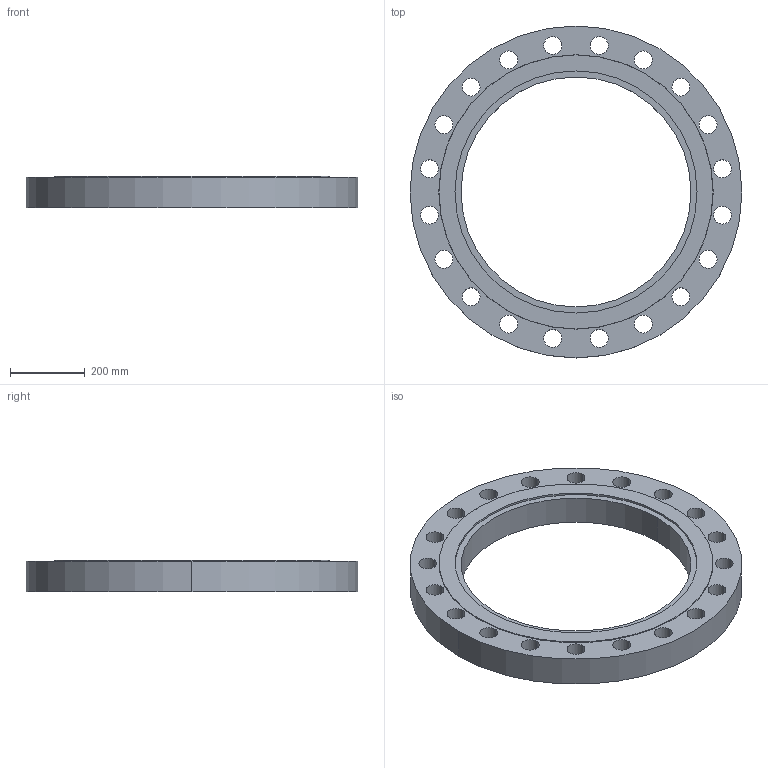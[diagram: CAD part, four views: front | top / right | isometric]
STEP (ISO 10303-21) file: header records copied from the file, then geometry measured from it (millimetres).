
FILE_DESCRIPTION (( 'STEP AP214' ), '1' );
FILE_NAME ('PN40 DN600 Type 01 - Type G Face.STEP', '2018-12-28T23:38:50', ( '' ), ( '' ), 'SwSTEP 2.0', 'SolidWorks 2019', '' );
FILE_SCHEMA (( 'AUTOMOTIVE_DESIGN' ));
Length unit declared in the file: millimetre
Products named in the file (1): PN40 DN600 Type 01 - Type G Face
Bounding box: 890 x 890 x 84 mm (x, y, z)
Volume: 23642723.1 mm3; surface area: 1218538 mm2
Topology: 1 solids, 1 shells, 52 faces, 144 edges, 96 vertices
Faces by surface type: cylinder 46, plane 4, cone 2
Entity records: 1842 total; most frequent: DIRECTION 346, CARTESIAN_POINT 293, ORIENTED_EDGE 288, AXIS2_PLACEMENT_3D 149, EDGE_CURVE 144, CIRCLE 96, EDGE_LOOP 96, VERTEX_POINT 96
